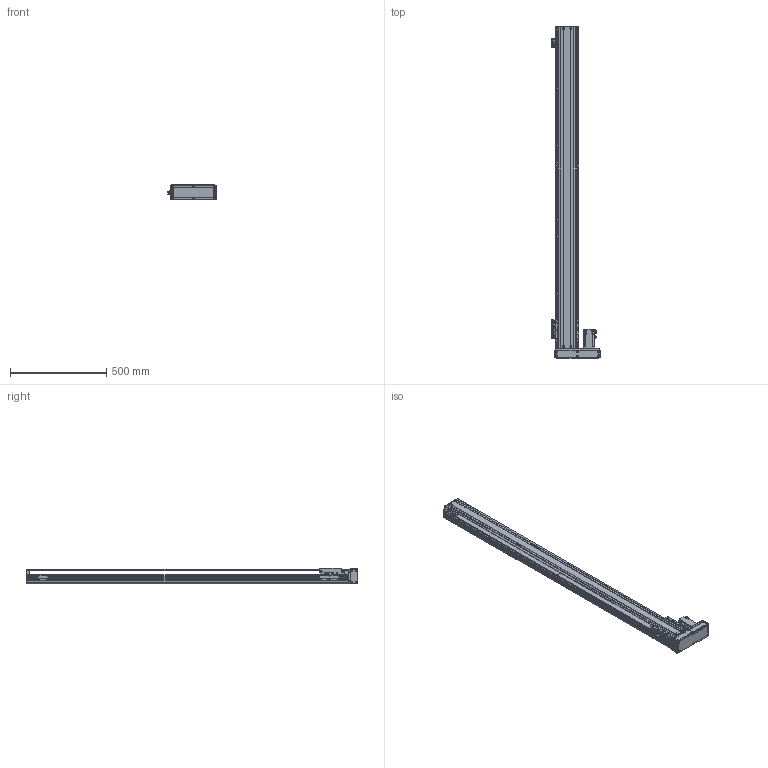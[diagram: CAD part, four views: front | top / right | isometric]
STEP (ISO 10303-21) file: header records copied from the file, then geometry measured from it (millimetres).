
FILE_DESCRIPTION(/* description */ ('MANUFACTURE'),/* implementation_level */ '2;1');
FILE_NAME(/* name */ '\\192.168.0.160\disk1\HAN SHIN Master\B-설계부문\C-표준\B-2024년\BC02-표준도면\+로봇 개선표준도면\홈페이지 표준 도면\홈페이지 최종 작업 폴더\3D\HR\HR120\HR120병렬\우병렬\HR120-R40-N-1500-L10.stp',/* time_stamp */ '2025-01-20T19:16:25+09:00',/* author */ ('user'),/* organization */ (''),/* preprocessor_version */ 'ST-DEVELOPER v18.1',/* originating_system */ 'Autodesk Inventor 2022',/* authorisation */ 'LIP');
FILE_SCHEMA (('CONFIG_CONTROL_DESIGN'));
Products named in the file (20): HG120-L40-N-0500-R10; HR120 S BASE; HR(HG) 120,130 FRONT BLOCK; HR(HG) 120,130 FRONT BLOCK_1; HR120 FRONT COVER; HG5UPCOV003; ORP6; HG120 TABLE-N; HR120 STOPPER; HR120 LR MOTOR PLATE (400W)-사출; MOTOR PLATE - 200W; hg-kr43_; 화살표; HR120 LR BELT COVER; HR160 ACRYL COVER - 1; HR160 ACRYL COVER - 1_1; HR160 ACRYL COVER - 1_2; HR120 SENSOR DOG; SENSOR BRK(EE-SX674A); EE_SX674A
Assembly tree (25 placements, depth 2):
  HG120-L40-N-0500-R10
    HR120 S BASE
    HR(HG) 120,130 FRONT BLOCK
    HR(HG) 120,130 FRONT BLOCK_1
    HR120 FRONT COVER
    HG5UPCOV003
    ORP6
    HG120 TABLE-N
    HR120 STOPPER
    HR120 LR MOTOR PLATE (400W)-사출
    MOTOR PLATE - 200W
    hg-kr43_
    화살표  x2
    HR120 LR BELT COVER
    HR160 ACRYL COVER - 1
    HR160 ACRYL COVER - 1_1
    HR160 ACRYL COVER - 1_2  x2
    SENSOR BRK(EE-SX674A)  x3
    EE_SX674A  x3
    HR120 SENSOR DOG
Bounding box: 250 x 1723 x 80 mm (x, y, z)
Volume: 4400085.9 mm3; surface area: 1778038.5 mm2
Topology: 25 solids, 25 shells, 3098 faces, 8874 edges, 5863 vertices
Faces by surface type: plane 2211, cylinder 742, cone 144, torus 1
Full cylindrical faces by diameter (mm): 2.459 x50, 3 x4, 3.242 x48, 3.4 x20, 3.5 x6, 4.134 x44, 4.5 x56, 4.917 x6, 5 x26, 5.5 x33, 5.8 x4, 5.9 x8, 6 x4, 6.6 x2, 7 x4, 7.5 x16, 8 x4, 9 x6, 9.5 x21, 14 x1, 17 x1, 20 x1, 22 x1, 24 x1, 28 x1, 32 x2, 33.7 x1, 50 x2
Entity records: 98795 total; most frequent: CARTESIAN_POINT 19958, ORIENTED_EDGE 16496, DIRECTION 15292, EDGE_CURVE 8248, LINE 6556, VECTOR 6556, VERTEX_POINT 5515, AXIS2_PLACEMENT_3D 4368
